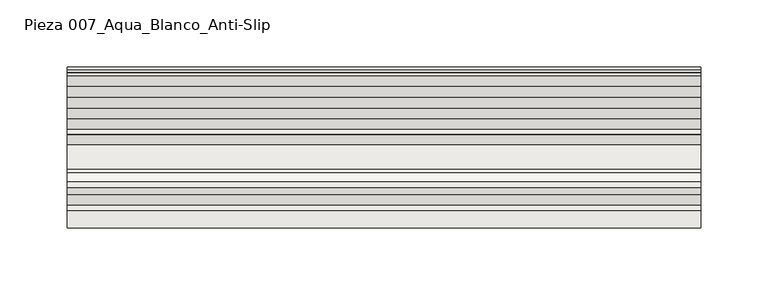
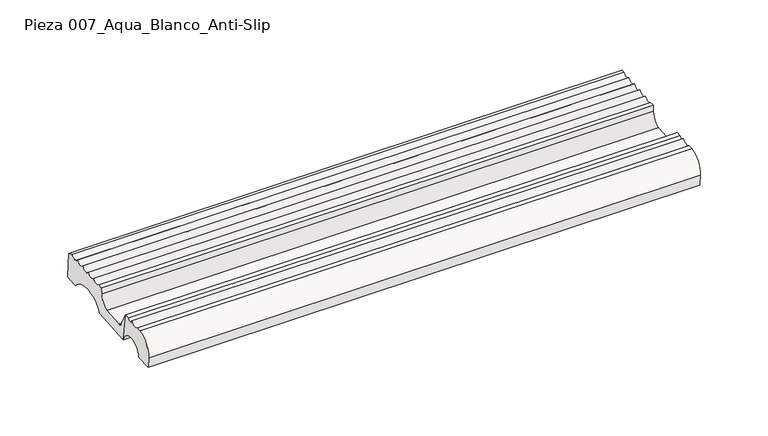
"""IFC4 building model written with IfcOpenShell, lengths in millimetres: slab geometry, ROSA GRES_007 : Pieza 007_Aqua_Blanco_Anti-Slip."""

import ifcopenshell
import ifcopenshell.guid

model = None  # the IFC model being written
_history = None  # IfcOwnerHistory: only IFC2X3 demands one
_inside = {}  # id of a spatial element -> (the spatial element, [elements in it])
_under = {}  # id of a project, library or spatial element -> (it, [spatial elements below it])
_declared = {}  # id of a project -> (the project, [libraries it declares])
_typed = {}  # id of a type object -> (the type object, [elements of that type])
_made_of = {}  # id of a material, layer set ... -> (it, [elements and type objects made of it])


def new_model(schema):
    """Start an empty IFC model of exactly this schema.

    Asked for "IFC4X3", IfcOpenShell would pick the latest addendum, in which some entities
    have other attributes; the version numbers below select the first issue.
    IFC2X3 requires an IfcOwnerHistory on every rooted entity: one is made here for all.
    """
    global model, _history
    if schema == "IFC4X3":
        model = ifcopenshell.file(schema_version=(4, 3, 0, 0))
    else:
        model = ifcopenshell.file(schema=schema)
    _inside.clear()
    _under.clear()
    _declared.clear()
    _typed.clear()
    _made_of.clear()
    _history = None
    if model.schema == "IFC2X3":
        org = make("IfcOrganization", Name="unknown")
        user = make(
            "IfcPersonAndOrganization",
            ThePerson=make("IfcPerson", FamilyName="unknown"),
            TheOrganization=org,
        )
        app = make(
            "IfcApplication",
            ApplicationDeveloper=org,
            Version="unknown",
            ApplicationFullName="unknown",
            ApplicationIdentifier="unknown",
        )
        _history = make(
            "IfcOwnerHistory",
            OwningUser=user,
            OwningApplication=app,
            ChangeAction="ADDED",
            CreationDate=0,
        )
    return model


def make(cls, **values):
    """One entity of the class cls with the attributes given. An attribute that is None is left unset."""
    return model.create_entity(
        cls, **{name: value for name, value in values.items() if value is not None}
    )


def rooted(cls, **values):
    """An entity with a GlobalId (a new one), such as an element, a storey or a relation."""
    return make(cls, GlobalId=ifcopenshell.guid.new(), OwnerHistory=_history, **values)


def si_unit(unit_type, name, prefix=None):
    """IfcSIUnit, for example si_unit("LENGTHUNIT", "METRE", prefix="MILLI")."""
    return make("IfcSIUnit", UnitType=unit_type, Prefix=prefix, Name=name)


def assignment(units):
    """IfcUnitAssignment: the units of a project."""
    return None if units is None else make("IfcUnitAssignment", Units=units)


def point(xyz):
    """IfcCartesianPoint."""
    return None if xyz is None else make("IfcCartesianPoint", Coordinates=xyz)


def direction(xyz):
    """IfcDirection."""
    return None if xyz is None else make("IfcDirection", DirectionRatios=xyz)


def frame(location, z_axis=None, x_axis=None):
    """IfcAxis2Placement3D, a coordinate frame: its origin and axes. An axis left out is left unset."""
    return make(
        "IfcAxis2Placement3D",
        Location=point(location),
        Axis=direction(z_axis),
        RefDirection=direction(x_axis),
    )


def frame_2d(location, x_axis=None):
    """IfcAxis2Placement2D, a coordinate frame in the plane: its origin and x axis."""
    return make(
        "IfcAxis2Placement2D", Location=point(location), RefDirection=direction(x_axis)
    )


def origin():
    """The frame at (0, 0, 0) with its axes left unset."""
    return frame((0.0, 0.0, 0.0))


def place(relative_to, where):
    """IfcLocalPlacement: puts the frame where relative to a parent placement (None: the world)."""
    return make(
        "IfcLocalPlacement", PlacementRelTo=relative_to, RelativePlacement=where
    )


def context(
    kind, dimensions, precision=None, world=None, true_north=None, identifier=None
):
    """IfcGeometricRepresentationContext, for example the 3D "Model" context."""
    return make(
        "IfcGeometricRepresentationContext",
        ContextIdentifier=identifier,
        ContextType=kind,
        CoordinateSpaceDimension=dimensions,
        Precision=precision,
        WorldCoordinateSystem=world,
        TrueNorth=true_north,
    )


def project(units=None, contexts=None):
    """IfcProject with its units and contexts."""
    return rooted(
        "IfcProject",
        Name="project",
        RepresentationContexts=contexts,
        UnitsInContext=assignment(units),
    )


def spatial(cls, under=None, at=None, **own):
    """A site, building, storey or space (cls), placed at a placement, below another one or the project."""
    s = rooted(cls, ObjectPlacement=at, **own)
    if under is not None:
        _under.setdefault(under.id(), (under, []))[1].append(s)
    return s


def polyline(points):
    """IfcPolyline through the points."""
    return make("IfcPolyline", Points=[point(p) for p in points])


def circle_curve(where, radius):
    """IfcCircle in the frame where."""
    return make("IfcCircle", Position=where, Radius=radius)


def trimmed(basis, trim1, trim2, sense, master):
    """IfcTrimmedCurve: the piece of a basis curve between two trims."""
    return make(
        "IfcTrimmedCurve",
        BasisCurve=basis,
        Trim1=trim1,
        Trim2=trim2,
        SenseAgreement=sense,
        MasterRepresentation=master,
    )


def segment(curve, same_sense, transition):
    """IfcCompositeCurveSegment."""
    return make(
        "IfcCompositeCurveSegment",
        Transition=transition,
        SameSense=same_sense,
        ParentCurve=curve,
    )


def composite_curve(segments, self_intersect=None):
    """IfcCompositeCurve: segments joined end to end."""
    return make("IfcCompositeCurve", Segments=segments, SelfIntersect=self_intersect)


def outline(outer, holes=None, kind="AREA"):
    """IfcArbitraryClosedProfileDef: a profile drawn as a closed curve; with holes, ...WithVoids."""
    if holes is None:
        return make("IfcArbitraryClosedProfileDef", ProfileType=kind, OuterCurve=outer)
    return make(
        "IfcArbitraryProfileDefWithVoids",
        ProfileType=kind,
        OuterCurve=outer,
        InnerCurves=holes,
    )


def extrude(swept, where, along, depth):
    """IfcExtrudedAreaSolid: the profile swept, set in the frame where, extruded along a direction by depth."""
    return make(
        "IfcExtrudedAreaSolid",
        SweptArea=swept,
        Position=where,
        ExtrudedDirection=direction(along),
        Depth=depth,
    )


def shape(context_of_items, identifier, shape_type, items):
    """IfcShapeRepresentation: the items that make up one representation, for example the "Body"."""
    return make(
        "IfcShapeRepresentation",
        ContextOfItems=context_of_items,
        RepresentationIdentifier=identifier,
        RepresentationType=shape_type,
        Items=items,
    )


def source(mapping_origin, context_of_items, identifier, shape_type, items):
    """IfcRepresentationMap: a shape defined once, which mapped items show again and again."""
    return make(
        "IfcRepresentationMap",
        MappingOrigin=mapping_origin,
        MappedRepresentation=shape(context_of_items, identifier, shape_type, items),
    )


def transform(
    local_origin,
    x_axis=None,
    y_axis=None,
    z_axis=None,
    scale=None,
    scale2=None,
    scale3=None,
    uniform=True,
):
    """IfcCartesianTransformationOperator3D, or its non-uniform kind. x_axis, y_axis, z_axis: its Axis1, 2, 3."""
    if uniform:
        return make(
            "IfcCartesianTransformationOperator3D",
            Axis1=direction(x_axis),
            Axis2=direction(y_axis),
            LocalOrigin=point(local_origin),
            Scale=scale,
            Axis3=direction(z_axis),
        )
    return make(
        "IfcCartesianTransformationOperator3DnonUniform",
        Axis1=direction(x_axis),
        Axis2=direction(y_axis),
        LocalOrigin=point(local_origin),
        Scale=scale,
        Axis3=direction(z_axis),
        Scale2=scale2,
        Scale3=scale3,
    )


def mapped(mapping_source, mapping_target):
    """IfcMappedItem: shows the shape of a source again, moved by a transform."""
    return make(
        "IfcMappedItem", MappingSource=mapping_source, MappingTarget=mapping_target
    )


def made_of(thing, what):
    """Note that an element or type object is made of a material, layer set ...; save() writes the relation."""
    if what is not None:
        _made_of.setdefault(what.id(), (what, []))[1].append(thing)
    return thing


def element(
    cls,
    number,
    at=None,
    inside=None,
    cuts=None,
    type_object=None,
    material=None,
    context=None,
    identifier="Body",
    shape_type=None,
    held_by="IfcProductDefinitionShape",
    body=None,
    shapes=None,
    **own,
):
    """One element of the class cls, such as IfcWall. Its Tag is "e" and its number.

    at: its placement. inside: the storey or other place that contains it. cuts: it is an
    opening in that element (IfcRelVoidsElement). A single representation is given by context,
    identifier, shape_type and body (its items); several are given by shapes. held_by: the class
    of the entity that holds the representations. save() writes the other relations.
    """
    e = rooted(cls, Tag="e%d" % number, ObjectPlacement=at, **own)
    if body is not None:
        shapes = [shape(context, identifier, shape_type, body)]
    if shapes is not None:
        e.Representation = make(held_by, Representations=shapes)
    if inside is not None:
        _inside.setdefault(inside.id(), (inside, []))[1].append(e)
    if cuts is not None:
        rooted(
            "IfcRelVoidsElement", RelatingBuildingElement=cuts, RelatedOpeningElement=e
        )
    if type_object is not None:
        _typed.setdefault(type_object.id(), (type_object, []))[1].append(e)
    return made_of(e, material)


def aggregate(whole, parts):
    """IfcRelAggregates: a whole, such as a stair, and the parts it consists of."""
    return rooted("IfcRelAggregates", RelatingObject=whole, RelatedObjects=parts)


def save(model, path):
    """Write the relations noted so far, then the file.

    IfcRelAggregates (storeys below a building ...), IfcRelContainedInSpatialStructure (elements
    in a storey), IfcRelDefinesByType, IfcRelAssociatesMaterial and IfcRelDeclares: one each for
    every whole, place, type object, material and project.
    """
    for whole, parts in _under.values():
        aggregate(whole, parts)
    for where, things in _inside.values():
        rooted(
            "IfcRelContainedInSpatialStructure",
            RelatedElements=things,
            RelatingStructure=where,
        )
    for kind, things in _typed.values():
        rooted("IfcRelDefinesByType", RelatedObjects=things, RelatingType=kind)
    for what, things in _made_of.values():
        rooted("IfcRelAssociatesMaterial", RelatedObjects=things, RelatingMaterial=what)
    for by, libraries in _declared.values():
        rooted("IfcRelDeclares", RelatingContext=by, RelatedDefinitions=libraries)
    model.write(path)


def pieza_007_aqua_blanco_anti_slip_bfcdc353(model_context):
    return source(origin(), model_context, "Body", "SweptSolid", [
        extrude(outline(composite_curve([segment(polyline([(14.3742659, 174.3159971), (0.6896004, 173.202129), (-0.0710994, 182.547869)]), True, "CONTINUOUS"), segment(trimmed(circle_curve(frame_2d((15.1536138, 183.7870899)), 15.2750633), [point((-0.0710994, 182.547869))], [point((12.7748841, 198.875801))], False, "CARTESIAN"), True, "CONTINUOUS"), segment(polyline([(12.7748841, 198.875801), (16.9364731, 199.1796191)]), True, "CONTINUOUS"), segment(trimmed(circle_curve(frame_2d((20.3008643, 202.7650351)), 4.9167404), [point((16.9364731, 199.1796191))], [point((24.7247274, 200.6193952))], True, "CARTESIAN"), True, "CONTINUOUS"), segment(trimmed(circle_curve(frame_2d((27.3971937, 201.142641)), 2.7232081), [point((24.7247274, 200.6193952))], [point((29.9345538, 200.1538709))], True, "CARTESIAN"), True, "CONTINUOUS"), segment(polyline([(29.9345538, 200.1538709), (33.8762309, 200.4746837), (37.1820416, 176.172444)]), True, "CONTINUOUS"), segment(trimmed(circle_curve(frame_2d((25.9545763, 173.0767428)), 11.6464304), [point((37.1820416, 176.172444))], [point((14.3742659, 174.3159971))], True, "CARTESIAN"), True, "CONTINUOUS")], self_intersect=False)), frame((0.0, 0.0, 0.0), z_axis=(1.0, 0.0, 0.0), x_axis=(0.0, 1.0, 0.0)), (0.0, 0.0, 1.0), 470.1434404),
        extrude(outline(composite_curve([segment(polyline([(71.8498608, 178.9942432), (37.1820416, 176.172444), (33.8762309, 200.4746837)]), True, "CONTINUOUS"), segment(trimmed(circle_curve(frame_2d((106.9597263, 233.2212806)), 80.084561), [point((33.8762309, 200.4746837))], [point((40.9402045, 187.8896178))], True, "CARTESIAN"), True, "CONTINUOUS"), segment(trimmed(circle_curve(frame_2d((43.5817022, 189.3117604)), 3.0), [point((40.9402045, 187.8896178))], [point((43.8250834, 186.3216491))], True, "CARTESIAN"), True, "CONTINUOUS"), segment(polyline([(43.8250834, 186.3216491), (61.867532, 187.7902205)]), True, "CONTINUOUS"), segment(trimmed(circle_curve(frame_2d((57.0579989, 199.0821231)), 12.2734948), [point((61.867532, 187.7902205))], [point((69.3023399, 198.236672))], True, "CARTESIAN"), True, "CONTINUOUS"), segment(polyline([(69.3023399, 198.236672), (69.6579726, 203.3871621), (73.3820924, 203.6902881)]), True, "CONTINUOUS"), segment(trimmed(circle_curve(frame_2d((76.8218788, 206.722806)), 4.5856619), [point((73.3820924, 203.6902881))], [point((81.0271834, 204.8942251))], True, "CARTESIAN"), True, "CONTINUOUS"), segment(trimmed(circle_curve(frame_2d((84.8780848, 207.3839748)), 4.5856619), [point((81.0271834, 204.8942251))], [point((89.0833894, 205.555394))], True, "CARTESIAN"), True, "CONTINUOUS"), segment(trimmed(circle_curve(frame_2d((92.9342908, 208.0451437)), 4.5856619), [point((89.0833894, 205.555394))], [point((97.1292049, 206.1928503))], True, "CARTESIAN"), True, "CONTINUOUS"), segment(trimmed(circle_curve(frame_2d((100.9933064, 209.1504161)), 4.8660534), [point((97.1292049, 206.1928503))], [point((105.2742048, 206.836894))], True, "CARTESIAN"), True, "CONTINUOUS"), segment(trimmed(circle_curve(frame_2d((109.1074243, 209.7932705)), 4.8408403), [point((105.2742048, 206.836894))], [point((113.0660814, 207.0070959))], True, "CARTESIAN"), True, "CONTINUOUS"), segment(polyline([(113.0660814, 207.0070959), (115.3491545, 207.1930072), (115.5338707, 204.9236084), (117.4809059, 205.0820876), (119.2900344, 182.8556525), (108.342302, 181.9645582)]), True, "CONTINUOUS"), segment(trimmed(circle_curve(frame_2d((91.1625174, 167.3774726)), 22.5372595), [point((108.342302, 181.9645582))], [point((71.8498608, 178.9942432))], True, "CARTESIAN"), True, "CONTINUOUS")], self_intersect=False)), frame((0.0, 0.0, 0.0), z_axis=(1.0, 0.0, 0.0), x_axis=(0.0, 1.0, 0.0)), (0.0, 0.0, 1.0), 470.1434404),
    ])


if __name__ == "__main__":
    model = new_model("IFC4")
    model_context = context("Model", 3, world=origin())
    ifc_project = project(units=[si_unit("LENGTHUNIT", "METRE", prefix="MILLI")], contexts=[model_context])
    site = spatial("IfcSite", under=ifc_project)
    building = spatial("IfcBuilding", under=site)
    placement = place(None, origin())
    pieza_007_aqua_blanco_anti_slip_shape = pieza_007_aqua_blanco_anti_slip_bfcdc353(model_context)
    element("IfcSlab", 1, ObjectType="ROSA GRES_007 : Pieza 007_Aqua_Blanco_Anti-Slip", at=placement, inside=building, context=model_context, shape_type="MappedRepresentation", body=[
        mapped(pieza_007_aqua_blanco_anti_slip_shape, transform((0.0, 0.0, 0.0), x_axis=(1.0, 0.0, 0.0), y_axis=(0.0, 1.0, 0.0), z_axis=(0.0, 0.0, 1.0))),
    ])
    save(model, "model.ifc")
